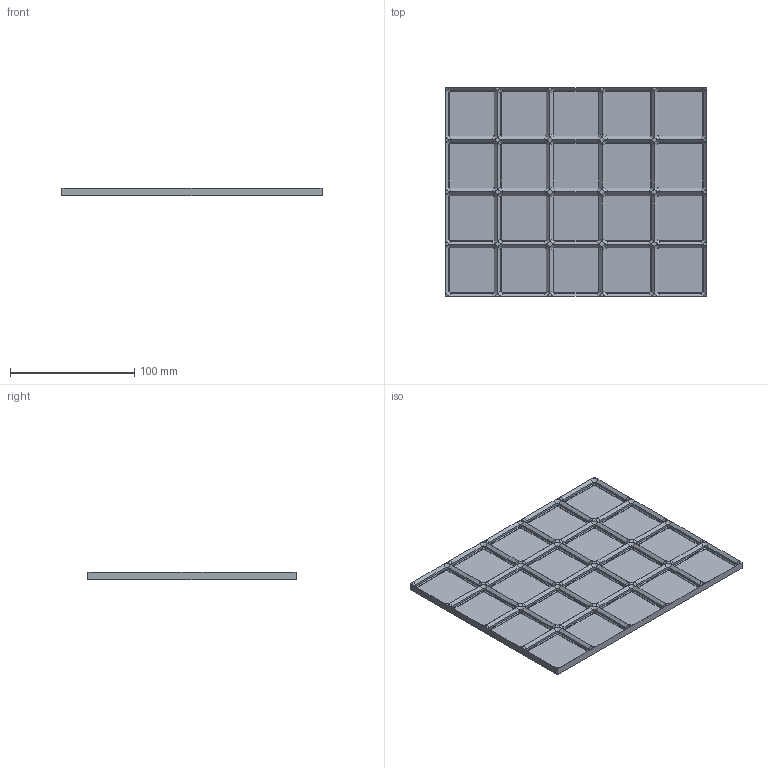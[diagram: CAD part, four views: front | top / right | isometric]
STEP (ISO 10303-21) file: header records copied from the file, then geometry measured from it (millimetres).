
FILE_DESCRIPTION(('Open CASCADE Model'),'2;1');
FILE_NAME('Open CASCADE Shape Model','2026-11-03T17:13:24',('Author'),( 'Open CASCADE'),'Open CASCADE STEP processor 8.0','build123d', 'Unknown');
FILE_SCHEMA(('AUTOMOTIVE_DESIGN { 1 0 10303 214 1 1 1 1 }'));
Length unit declared in the file: millimetre
Products named in the file (1): COMPOUND
Bounding box: 210 x 168 x 5.92 mm (x, y, z)
Volume: 63525.6 mm3; surface area: 84716.4 mm2
Topology: 1 solids, 1 shells, 695 faces, 1439 edges, 746 vertices
Faces by surface type: plane 375, cone 160, cylinder 160
Entity records: 34330 total; most frequent: CARTESIAN_POINT 7679, DIRECTION 4189, ORIENTED_EDGE 2878, PCURVE 2878, DEFINITIONAL_REPRESENTATION 2878, B_SPLINE_CURVE_WITH_KNOTS 1920, LINE 1837, VECTOR 1837
